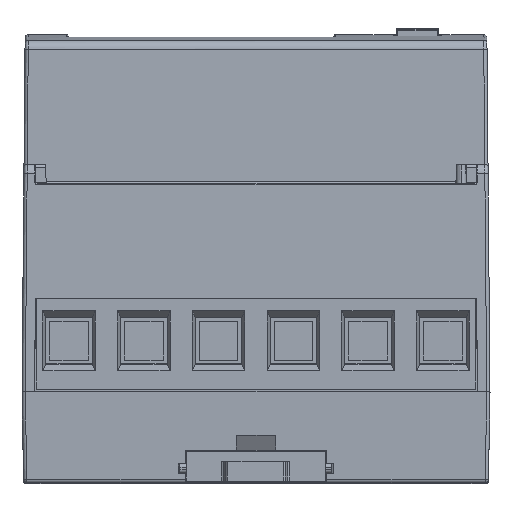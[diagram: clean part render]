
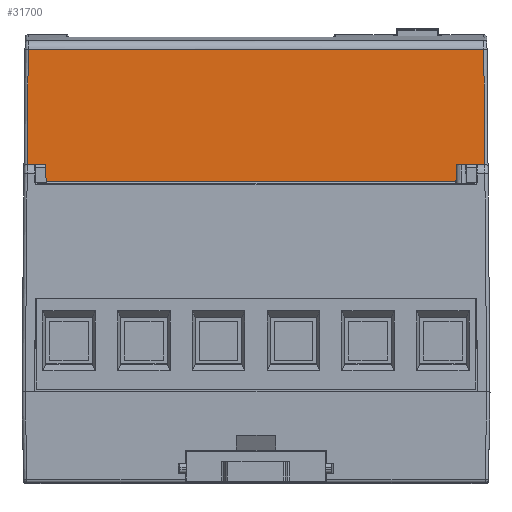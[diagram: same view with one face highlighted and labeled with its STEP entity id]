
A CAD part, top view. The second image highlights one B-rep face of the part: STEP entity #31700.
In plain terms, the highlighted planar face has unit normal (0, 0.009, 1).
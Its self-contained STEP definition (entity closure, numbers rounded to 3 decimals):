
#245 = EDGE_LOOP ( 'NONE', ( #12666, #24474, #25059, #587 ) ) ;
#587 = ORIENTED_EDGE ( 'NONE', *, *, #33289, .T. ) ;
#864 = EDGE_CURVE ( 'NONE', #1308, #36165, #18678, .T. ) ;
#1010 = CARTESIAN_POINT ( 'NONE',  ( 0., 52.637, 22.319 ) ) ;
#1308 = VERTEX_POINT ( 'NONE', #5388 ) ;
#1396 = DIRECTION ( 'NONE',  ( 0., -1., 0.009 ) ) ;
#1756 = CARTESIAN_POINT ( 'NONE',  ( 0., 31.9, 22.5 ) ) ;
#2698 = DIRECTION ( 'NONE',  ( -0.009, -1., 0.009 ) ) ;
#3328 = DIRECTION ( 'NONE',  ( 1., 0., 0. ) ) ;
#3637 = VECTOR ( 'NONE', #2698, 1000. ) ;
#5331 = CARTESIAN_POINT ( 'NONE',  ( 35.722, 32.396, 22.496 ) ) ;
#5388 = CARTESIAN_POINT ( 'NONE',  ( -35.041, 52.637, 22.319 ) ) ;
#6927 = EDGE_CURVE ( 'NONE', #19321, #1308, #32164, .T. ) ;
#8124 = FACE_OUTER_BOUND ( 'NONE', #245, .T. ) ;
#11219 = VECTOR ( 'NONE', #3328, 1000. ) ;
#12666 = ORIENTED_EDGE ( 'NONE', *, *, #6927, .T. ) ;
#14339 = LINE ( 'NONE', #5331, #11219 ) ;
#15435 = LINE ( 'NONE', #23485, #32682 ) ;
#15618 = PLANE ( 'NONE',  #33747 ) ;
#15763 = VECTOR ( 'NONE', #20771, 1000. ) ;
#18678 = LINE ( 'NONE', #27921, #3637 ) ;
#19321 = VERTEX_POINT ( 'NONE', #26269 ) ;
#20771 = DIRECTION ( 'NONE',  ( -1., 0., 0. ) ) ;
#22671 = CARTESIAN_POINT ( 'NONE',  ( 35.217, 32.396, 22.496 ) ) ;
#23485 = CARTESIAN_POINT ( 'NONE',  ( 35.219, 32.207, 22.497 ) ) ;
#24474 = ORIENTED_EDGE ( 'NONE', *, *, #864, .T. ) ;
#25059 = ORIENTED_EDGE ( 'NONE', *, *, #35406, .T. ) ;
#26269 = CARTESIAN_POINT ( 'NONE',  ( 35.041, 52.637, 22.319 ) ) ;
#26333 = DIRECTION ( 'NONE',  ( -0.009, 1., -0.009 ) ) ;
#27921 = CARTESIAN_POINT ( 'NONE',  ( -35.219, 32.207, 22.497 ) ) ;
#31700 = ADVANCED_FACE ( 'NONE', ( #8124 ), #15618, .T. ) ;
#32164 = LINE ( 'NONE', #1010, #15763 ) ;
#32682 = VECTOR ( 'NONE', #26333, 1000. ) ;
#33289 = EDGE_CURVE ( 'NONE', #35001, #19321, #15435, .T. ) ;
#33747 = AXIS2_PLACEMENT_3D ( 'NONE', #1756, #35675, #1396 ) ;
#34370 = CARTESIAN_POINT ( 'NONE',  ( -35.217, 32.396, 22.496 ) ) ;
#35001 = VERTEX_POINT ( 'NONE', #22671 ) ;
#35406 = EDGE_CURVE ( 'NONE', #36165, #35001, #14339, .T. ) ;
#35675 = DIRECTION ( 'NONE',  ( 0., 0.009, 1. ) ) ;
#36165 = VERTEX_POINT ( 'NONE', #34370 ) ;
